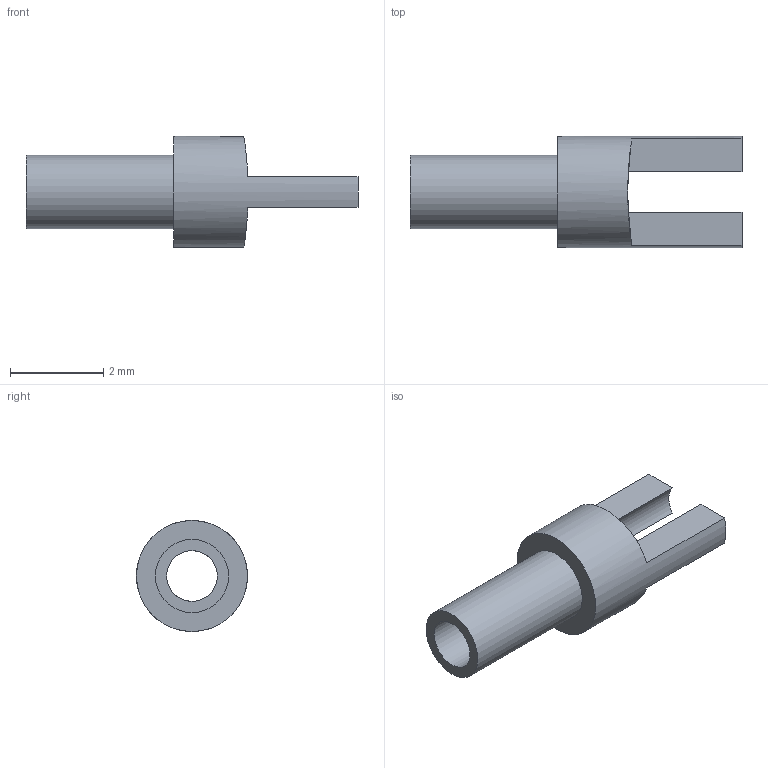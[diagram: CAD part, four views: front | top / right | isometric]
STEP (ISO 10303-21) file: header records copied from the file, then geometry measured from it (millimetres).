
FILE_DESCRIPTION(/* description */ (''),/* implementation_level */ '2;1');
FILE_NAME(/* name */ 'Z:\STEP folder\140-1785-03.ipt.stp',/* time_stamp */ '2016-12-07T10:39:33+00:00',/* author */ ('Paul Karlsons'),/* organization */ (''),/* preprocessor_version */ 'ST-DEVELOPER v15.2',/* originating_system */ 'Autodesk Inventor 2014',/* authorisation */ '');
FILE_SCHEMA (('AUTOMOTIVE_DESIGN { 1 0 10303 214 3 1 1 }'));
Length unit declared in the file: millimetre
Products named in the file (1): 140-1785-03
Bounding box: 7.14 x 2.39 x 2.39 mm (x, y, z)
Volume: 10.8 mm3; surface area: 64 mm2
Topology: 1 solids, 1 shells, 13 faces, 33 edges, 22 vertices
Faces by surface type: plane 8, cylinder 5
Full cylindrical faces by diameter (mm): 1.09 x1, 1.575 x1, 2.388 x1
Entity records: 443 total; most frequent: CARTESIAN_POINT 122, DIRECTION 64, ORIENTED_EDGE 56, EDGE_CURVE 28, AXIS2_PLACEMENT_3D 26, VERTEX_POINT 20, EDGE_LOOP 18, ADVANCED_FACE 13
